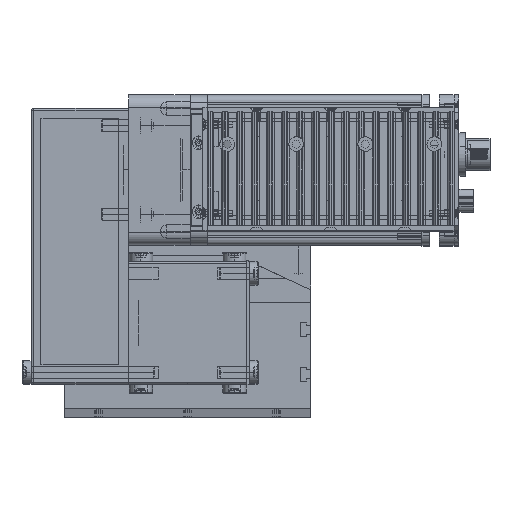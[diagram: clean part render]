
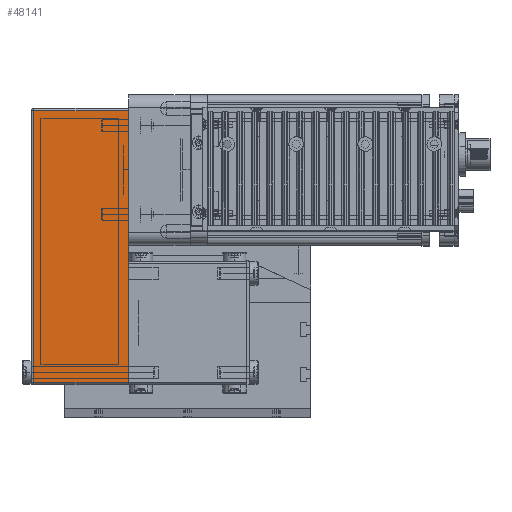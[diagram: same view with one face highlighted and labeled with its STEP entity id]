
A CAD part, top view. The second image highlights one B-rep face of the part: STEP entity #48141.
In plain terms, the highlighted planar face has unit normal (0, 0, 1) as drawn and (0, -1, 0) by its records, which use the part's own axes.
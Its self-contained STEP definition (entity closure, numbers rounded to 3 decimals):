
#26726 = CARTESIAN_POINT ( 'NONE',  ( -49., -25., 38.5 ) ) ;
#26790 = CARTESIAN_POINT ( 'NONE',  ( -49., -25., 0. ) ) ;
#27286 = DIRECTION ( 'NONE',  ( 0., 0., 1. ) ) ;
#27289 = VECTOR ( 'NONE', #27286, 1000. ) ;
#27290 = CARTESIAN_POINT ( 'NONE',  ( -49., -25., 39.5 ) ) ;
#27291 = LINE ( 'NONE', #27290, #27289 ) ;
#27542 = CARTESIAN_POINT ( 'NONE',  ( 61., -25., 0. ) ) ;
#27635 = CARTESIAN_POINT ( 'NONE',  ( 61., -25., 38.5 ) ) ;
#28022 = DIRECTION ( 'NONE',  ( 0., 0., -1. ) ) ;
#28023 = VECTOR ( 'NONE', #28022, 1000. ) ;
#28024 = CARTESIAN_POINT ( 'NONE',  ( 61., -25., 39.5 ) ) ;
#28025 = LINE ( 'NONE', #28024, #28023 ) ;
#29850 = CARTESIAN_POINT ( 'NONE',  ( -50., -25., 0. ) ) ;
#29852 = LINE ( 'NONE', #29850, #29931 ) ;
#29930 = DIRECTION ( 'NONE',  ( 1., 0., 0. ) ) ;
#29931 = VECTOR ( 'NONE', #29930, 1000. ) ;
#30114 = DIRECTION ( 'NONE',  ( 0., 0., 1. ) ) ;
#30115 = DIRECTION ( 'NONE',  ( 0., 1., 0. ) ) ;
#30116 = CARTESIAN_POINT ( 'NONE',  ( -50., -25., 39.5 ) ) ;
#30117 = AXIS2_PLACEMENT_3D ( 'NONE', #30116, #30115, #30114 ) ;
#30127 = FACE_OUTER_BOUND ( 'NONE', #48039, .T. ) ;
#30128 = PLANE ( 'NONE',  #30117 ) ;
#30255 = DIRECTION ( 'NONE',  ( 1., 0., 0. ) ) ;
#30256 = VECTOR ( 'NONE', #30255, 1000. ) ;
#30257 = CARTESIAN_POINT ( 'NONE',  ( -50., -25., 38.5 ) ) ;
#30258 = LINE ( 'NONE', #30257, #30256 ) ;
#46363 = VERTEX_POINT ( 'NONE', #26726 ) ;
#46433 = VERTEX_POINT ( 'NONE', #26790 ) ;
#46698 = EDGE_CURVE ( 'NONE', #46433, #46363, #27291, .T. ) ;
#46797 = VERTEX_POINT ( 'NONE', #27542 ) ;
#46827 = VERTEX_POINT ( 'NONE', #27635 ) ;
#46997 = EDGE_CURVE ( 'NONE', #46827, #46797, #28025, .T. ) ;
#47646 = ORIENTED_EDGE ( 'NONE', *, *, #46698, .F. ) ;
#48017 = ORIENTED_EDGE ( 'NONE', *, *, #46997, .F. ) ;
#48037 = EDGE_CURVE ( 'NONE', #46433, #46797, #29852, .T. ) ;
#48039 = EDGE_LOOP ( 'NONE', ( #47646, #48142, #48017, #48120 ) ) ;
#48120 = ORIENTED_EDGE ( 'NONE', *, *, #48198, .F. ) ;
#48141 = ADVANCED_FACE ( 'NONE', ( #30127 ), #30128, .F. ) ;
#48142 = ORIENTED_EDGE ( 'NONE', *, *, #48037, .T. ) ;
#48198 = EDGE_CURVE ( 'NONE', #46363, #46827, #30258, .T. ) ;
